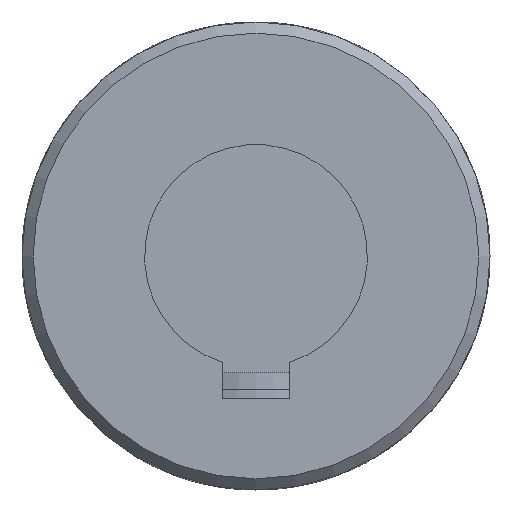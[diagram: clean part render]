
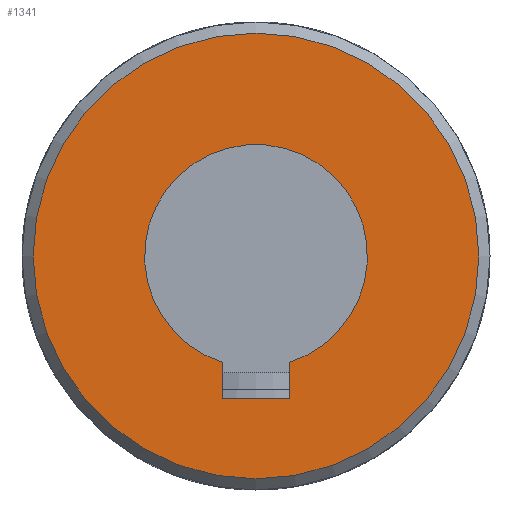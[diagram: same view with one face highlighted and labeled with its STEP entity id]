
A CAD part, front view. The second image highlights one B-rep face of the part: STEP entity #1341.
In plain terms, the highlighted planar face has unit normal (0, -1, 0).
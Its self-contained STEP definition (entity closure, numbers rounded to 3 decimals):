
#149=LINE('',#2393,#194);
#153=LINE('',#2416,#198);
#155=LINE('',#2424,#200);
#194=VECTOR('',#1744,3.261);
#198=VECTOR('',#1756,6.);
#200=VECTOR('',#1760,3.261);
#239=PLANE('',#1478);
#277=FACE_BOUND('',#453,.T.);
#340=FACE_OUTER_BOUND('',#452,.T.);
#452=EDGE_LOOP('',(#1124));
#453=EDGE_LOOP('',(#1125,#1126,#1127,#1128));
#527=CIRCLE('',#1467,10.);
#531=CIRCLE('',#1476,20.);
#629=VERTEX_POINT('',#2390);
#630=VERTEX_POINT('',#2392);
#633=VERTEX_POINT('',#2402);
#635=VERTEX_POINT('',#2414);
#640=VERTEX_POINT('',#2471);
#788=EDGE_CURVE('',#630,#629,#149,.T.);
#792=EDGE_CURVE('',#633,#630,#527,.T.);
#796=EDGE_CURVE('',#629,#635,#153,.T.);
#799=EDGE_CURVE('',#635,#633,#155,.T.);
#805=EDGE_CURVE('',#640,#640,#531,.T.);
#1124=ORIENTED_EDGE('',*,*,#805,.F.);
#1125=ORIENTED_EDGE('',*,*,#796,.T.);
#1126=ORIENTED_EDGE('',*,*,#799,.T.);
#1127=ORIENTED_EDGE('',*,*,#792,.T.);
#1128=ORIENTED_EDGE('',*,*,#788,.T.);
#1341=ADVANCED_FACE('',(#340,#277),#239,.F.);
#1467=AXIS2_PLACEMENT_3D('',#2403,#1750,#1751);
#1476=AXIS2_PLACEMENT_3D('',#2472,#1773,#1774);
#1478=AXIS2_PLACEMENT_3D('',#2696,#1781,#1782);
#1744=DIRECTION('',(0.,0.,-1.));
#1750=DIRECTION('center_axis',(0.,1.,0.));
#1751=DIRECTION('ref_axis',(-0.3,0.,0.954));
#1756=DIRECTION('',(-1.,0.,0.));
#1760=DIRECTION('',(0.,0.,1.));
#1773=DIRECTION('center_axis',(0.,1.,0.));
#1774=DIRECTION('ref_axis',(1.,0.,0.));
#1781=DIRECTION('center_axis',(0.,1.,0.));
#1782=DIRECTION('ref_axis',(0.,0.,1.));
#2390=CARTESIAN_POINT('',(3.,-51.,-12.8));
#2392=CARTESIAN_POINT('',(3.,-51.,-9.539));
#2393=CARTESIAN_POINT('',(3.,-51.,-4.77));
#2402=CARTESIAN_POINT('',(-3.,-51.,-9.539));
#2403=CARTESIAN_POINT('Origin',(0.,-51.,0.));
#2414=CARTESIAN_POINT('',(-3.,-51.,-12.8));
#2416=CARTESIAN_POINT('',(1.5,-51.,-12.8));
#2424=CARTESIAN_POINT('',(-3.,-51.,-6.4));
#2471=CARTESIAN_POINT('',(-20.,-51.,0.));
#2472=CARTESIAN_POINT('Origin',(0.,-51.,0.));
#2696=CARTESIAN_POINT('Origin',(0.,-51.,0.));
